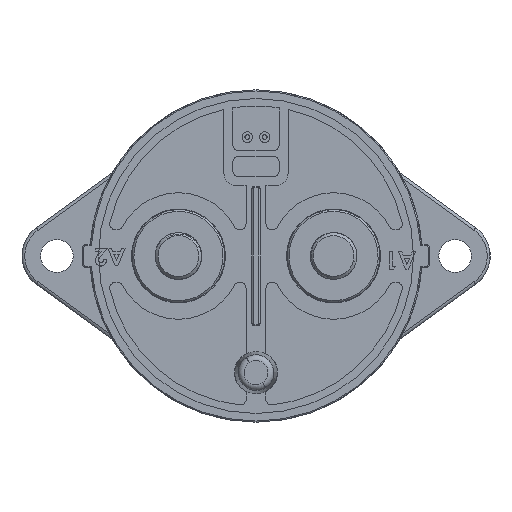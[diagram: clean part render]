
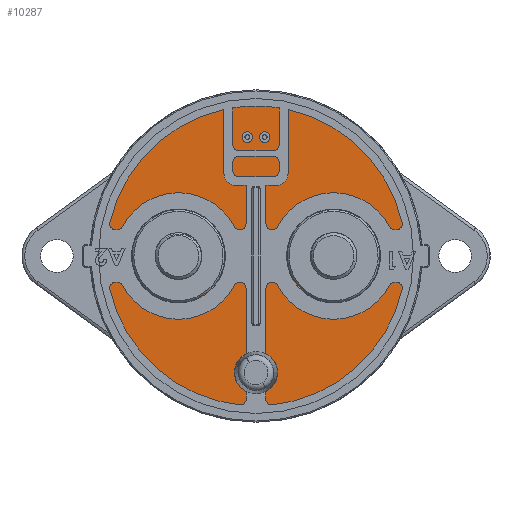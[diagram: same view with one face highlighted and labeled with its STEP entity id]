
A CAD part, front view. The second image highlights one B-rep face of the part: STEP entity #10287.
In plain terms, the highlighted planar face has unit normal (0, -1, 0).
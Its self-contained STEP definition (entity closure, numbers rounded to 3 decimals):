
#9964=CARTESIAN_POINT('',(-116.926,44.799,
-4.4));
#9965=DIRECTION('',(0.,-1.,0.));
#9966=DIRECTION('',(0.,0.,-1.));
#9967=AXIS2_PLACEMENT_3D('',#9964,#9965,#9966);
#9969=CARTESIAN_POINT('',(-116.926,44.799,
-4.4));
#9970=DIRECTION('',(0.,-1.,0.));
#9971=DIRECTION('',(0.,0.,1.));
#9972=AXIS2_PLACEMENT_3D('',#9969,#9970,#9971);
#9974=CARTESIAN_POINT('',(-115.426,44.799,15.994));
#9975=DIRECTION('',(0.,1.,0.));
#9976=DIRECTION('',(0.,0.,1.));
#9977=AXIS2_PLACEMENT_3D('',#9974,#9975,#9976);
#9979=CARTESIAN_POINT('',(-115.426,44.799,15.994));
#9980=DIRECTION('',(0.,1.,0.));
#9981=DIRECTION('',(0.,0.,-1.));
#9982=AXIS2_PLACEMENT_3D('',#9979,#9980,#9981);
#9984=CARTESIAN_POINT('',(-103.626,44.799,
-4.4));
#9985=DIRECTION('',(0.,1.,0.));
#9986=DIRECTION('',(0.,0.,1.));
#9987=AXIS2_PLACEMENT_3D('',#9984,#9985,#9986);
#9989=CARTESIAN_POINT('',(-103.626,44.799,
-4.4));
#9990=DIRECTION('',(0.,1.,0.));
#9991=DIRECTION('',(0.,0.,-1.));
#9992=AXIS2_PLACEMENT_3D('',#9989,#9990,#9991);
#9994=CARTESIAN_POINT('',(-130.226,44.799,
-4.4));
#9995=DIRECTION('',(0.,1.,0.));
#9996=DIRECTION('',(0.,0.,1.));
#9997=AXIS2_PLACEMENT_3D('',#9994,#9995,#9996);
#9999=CARTESIAN_POINT('',(-130.226,44.799,
-4.4));
#10000=DIRECTION('',(0.,1.,0.));
#10001=DIRECTION('',(0.,0.,-1.));
#10002=AXIS2_PLACEMENT_3D('',#9999,#10000,#10001);
#10004=CARTESIAN_POINT('',(-118.426,44.799,
15.994));
#10005=DIRECTION('',(0.,1.,0.));
#10006=DIRECTION('',(0.,0.,1.));
#10007=AXIS2_PLACEMENT_3D('',#10004,#10005,#10006);
#10009=CARTESIAN_POINT('',(-118.426,44.799,
15.994));
#10010=DIRECTION('',(0.,1.,0.));
#10011=DIRECTION('',(0.,0.,-1.));
#10012=AXIS2_PLACEMENT_3D('',#10009,#10010,#10011);
#10122=CARTESIAN_POINT('',(-103.626,44.799,-12.4));
#10123=VERTEX_POINT('',#10122);
#10128=CARTESIAN_POINT('',(-118.426,44.799,
15.094));
#10129=CARTESIAN_POINT('',(-118.426,44.799,
16.894));
#10130=VERTEX_POINT('',#10128);
#10131=VERTEX_POINT('',#10129);
#10133=CARTESIAN_POINT('',(-130.226,44.799,
3.6));
#10135=VERTEX_POINT('',#10133);
#10140=CARTESIAN_POINT('',(-116.926,44.799,-31.4));
#10141=VERTEX_POINT('',#10140);
#10146=CARTESIAN_POINT('',(-103.626,44.799,
3.6));
#10147=VERTEX_POINT('',#10146);
#10154=CARTESIAN_POINT('',(-115.426,44.799,
15.094));
#10155=CARTESIAN_POINT('',(-115.426,44.799,
16.894));
#10156=VERTEX_POINT('',#10154);
#10157=VERTEX_POINT('',#10155);
#10162=CARTESIAN_POINT('',(-116.926,44.799,22.6));
#10163=VERTEX_POINT('',#10162);
#10168=CARTESIAN_POINT('',(-130.226,44.799,-12.4));
#10169=VERTEX_POINT('',#10168);
#10254=CARTESIAN_POINT('',(-116.926,44.799,
-4.4));
#10255=DIRECTION('',(0.,-1.,0.));
#10256=DIRECTION('',(0.,0.,1.));
#10257=AXIS2_PLACEMENT_3D('',#10254,#10255,#10256);
#10258=PLANE('',#10257);
#10260=ORIENTED_EDGE('',*,*,#10259,.F.);
#10262=ORIENTED_EDGE('',*,*,#10261,.F.);
#10263=EDGE_LOOP('',(#10260,#10262));
#10264=FACE_OUTER_BOUND('',#10263,.F.);
#10266=ORIENTED_EDGE('',*,*,#10265,.F.);
#10268=ORIENTED_EDGE('',*,*,#10267,.F.);
#10269=EDGE_LOOP('',(#10266,#10268));
#10270=FACE_BOUND('',#10269,.F.);
#10272=ORIENTED_EDGE('',*,*,#10271,.F.);
#10274=ORIENTED_EDGE('',*,*,#10273,.F.);
#10275=EDGE_LOOP('',(#10272,#10274));
#10276=FACE_BOUND('',#10275,.F.);
#10278=ORIENTED_EDGE('',*,*,#10277,.F.);
#10280=ORIENTED_EDGE('',*,*,#10279,.F.);
#10281=EDGE_LOOP('',(#10278,#10280));
#10282=FACE_BOUND('',#10281,.F.);
#10283=ORIENTED_EDGE('',*,*,#10233,.F.);
#10284=ORIENTED_EDGE('',*,*,#10248,.F.);
#10285=EDGE_LOOP('',(#10283,#10284));
#10286=FACE_BOUND('',#10285,.F.);
#10287=ADVANCED_FACE('',(#10264,#10270,#10276,#10282,#10286),#10258,.T.);
#9968=CIRCLE('',#9967,27.);
#9973=CIRCLE('',#9972,27.);
#9978=CIRCLE('',#9977,0.9);
#9983=CIRCLE('',#9982,0.9);
#9988=CIRCLE('',#9987,8.);
#9993=CIRCLE('',#9992,8.);
#9998=CIRCLE('',#9997,8.);
#10003=CIRCLE('',#10002,8.);
#10008=CIRCLE('',#10007,0.9);
#10013=CIRCLE('',#10012,0.9);
#10233=EDGE_CURVE('',#10131,#10130,#10008,.T.);
#10248=EDGE_CURVE('',#10130,#10131,#10013,.T.);
#10259=EDGE_CURVE('',#10141,#10163,#9968,.T.);
#10261=EDGE_CURVE('',#10163,#10141,#9973,.T.);
#10265=EDGE_CURVE('',#10157,#10156,#9978,.T.);
#10267=EDGE_CURVE('',#10156,#10157,#9983,.T.);
#10271=EDGE_CURVE('',#10147,#10123,#9988,.T.);
#10273=EDGE_CURVE('',#10123,#10147,#9993,.T.);
#10277=EDGE_CURVE('',#10135,#10169,#9998,.T.);
#10279=EDGE_CURVE('',#10169,#10135,#10003,.T.);
